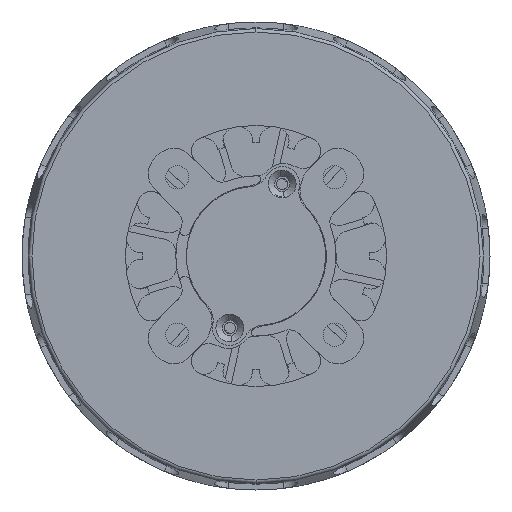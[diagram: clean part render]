
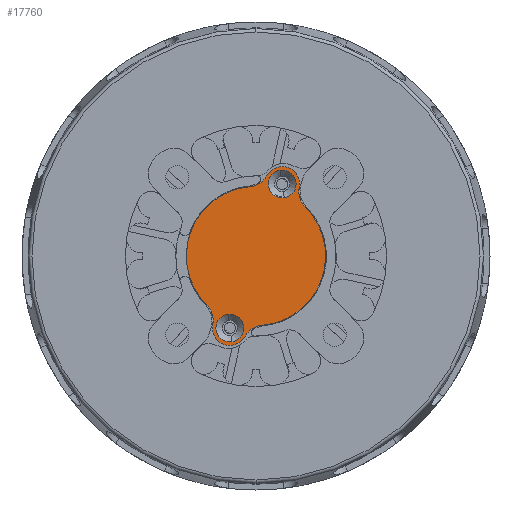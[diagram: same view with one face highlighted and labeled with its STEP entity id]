
A CAD part, left-side view. The second image highlights one B-rep face of the part: STEP entity #17760.
In plain terms, the highlighted planar face has unit normal (-1, 0, 0).
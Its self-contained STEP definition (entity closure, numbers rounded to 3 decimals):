
#179 = CARTESIAN_POINT ( 'NONE',  ( 0., 0., 0. ) ) ;
#262 = DIRECTION ( 'NONE',  ( 1., 0., 0. ) ) ;
#730 = AXIS2_PLACEMENT_3D ( 'NONE', #38484, #35053, #16709 ) ;
#759 = CARTESIAN_POINT ( 'NONE',  ( 0., -1.564, 11.527 ) ) ;
#1628 = ORIENTED_EDGE ( 'NONE', *, *, #35247, .F. ) ;
#1676 = CARTESIAN_POINT ( 'NONE',  ( 0., -3.762, 10.337 ) ) ;
#1888 = CIRCLE ( 'NONE', #15101, 3. ) ;
#2288 = EDGE_CURVE ( 'NONE', #23543, #23073, #1888, .T. ) ;
#2576 = EDGE_LOOP ( 'NONE', ( #1628, #32707 ) ) ;
#2927 = FACE_OUTER_BOUND ( 'NONE', #23339, .T. ) ;
#3023 = CARTESIAN_POINT ( 'NONE',  ( 0., 1.074, 12.956 ) ) ;
#3256 = DIRECTION ( 'NONE',  ( 0., -0.906, 0.423 ) ) ;
#3461 = CIRCLE ( 'NONE', #42716, 2.5 ) ;
#3865 = CARTESIAN_POINT ( 'NONE',  ( 0., 0., 0. ) ) ;
#4319 = DIRECTION ( 'NONE',  ( 0., -0.906, 0.423 ) ) ;
#5112 = ORIENTED_EDGE ( 'NONE', *, *, #28214, .F. ) ;
#5248 = ORIENTED_EDGE ( 'NONE', *, *, #25207, .F. ) ;
#6271 = EDGE_CURVE ( 'NONE', #12224, #23543, #3461, .T. ) ;
#6377 = CIRCLE ( 'NONE', #45202, 2. ) ;
#6434 = DIRECTION ( 'NONE',  ( 0., -0.906, 0.423 ) ) ;
#6467 = DIRECTION ( 'NONE',  ( 1., 0., 0. ) ) ;
#6785 = AXIS2_PLACEMENT_3D ( 'NONE', #23031, #36996, #37218 ) ;
#6836 = ORIENTED_EDGE ( 'NONE', *, *, #6271, .F. ) ;
#6894 = DIRECTION ( 'NONE',  ( -1., 0., 0. ) ) ;
#7172 = DIRECTION ( 'NONE',  ( -1., 0., 0. ) ) ;
#7369 = DIRECTION ( 'NONE',  ( 1., 0., 0. ) ) ;
#7411 = CARTESIAN_POINT ( 'NONE',  ( 0., -3.461, 12.314 ) ) ;
#9514 = AXIS2_PLACEMENT_3D ( 'NONE', #3865, #35961, #4319 ) ;
#10036 = DIRECTION ( 'NONE',  ( -1., 0., 0. ) ) ;
#10541 = CARTESIAN_POINT ( 'NONE',  ( 0., 3.762, -10.337 ) ) ;
#10823 = CARTESIAN_POINT ( 'NONE',  ( 0., -0.826, -9.966 ) ) ;
#11594 = AXIS2_PLACEMENT_3D ( 'NONE', #10541, #6894, #6434 ) ;
#11764 = AXIS2_PLACEMENT_3D ( 'NONE', #179, #24029, #31572 ) ;
#11882 = VERTEX_POINT ( 'NONE', #7411 ) ;
#12224 = VERTEX_POINT ( 'NONE', #25703 ) ;
#12910 = ORIENTED_EDGE ( 'NONE', *, *, #22326, .F. ) ;
#13163 = CIRCLE ( 'NONE', #37343, 2.5 ) ;
#13907 = CIRCLE ( 'NONE', #730, 2. ) ;
#13944 = CARTESIAN_POINT ( 'NONE',  ( 0., -3.762, 10.337 ) ) ;
#14329 = CARTESIAN_POINT ( 'NONE',  ( 0., 6.211, -9.835 ) ) ;
#15101 = AXIS2_PLACEMENT_3D ( 'NONE', #28269, #7172, #32163 ) ;
#15508 = ORIENTED_EDGE ( 'NONE', *, *, #17486, .F. ) ;
#16170 = VERTEX_POINT ( 'NONE', #23786 ) ;
#16288 = ORIENTED_EDGE ( 'NONE', *, *, #2288, .F. ) ;
#16684 = VERTEX_POINT ( 'NONE', #30433 ) ;
#16709 = DIRECTION ( 'NONE',  ( 0., -0.906, 0.423 ) ) ;
#17002 = DIRECTION ( 'NONE',  ( 0., -0.906, 0.423 ) ) ;
#17486 = EDGE_CURVE ( 'NONE', #23073, #39131, #38132, .T. ) ;
#17588 = FACE_BOUND ( 'NONE', #2576, .T. ) ;
#17696 = CARTESIAN_POINT ( 'NONE',  ( 0., 3.762, -10.337 ) ) ;
#17760 = ADVANCED_FACE ( 'NONE', ( #2927, #27464, #17588 ), #31799, .F. ) ;
#19489 = EDGE_CURVE ( 'NONE', #27405, #33375, #44504, .T. ) ;
#20239 = DIRECTION ( 'NONE',  ( -1., 0., 0. ) ) ;
#20316 = CIRCLE ( 'NONE', #26156, 3. ) ;
#21777 = CIRCLE ( 'NONE', #37134, 2. ) ;
#22078 = CIRCLE ( 'NONE', #6785, 3. ) ;
#22326 = EDGE_CURVE ( 'NONE', #11882, #16170, #6377, .T. ) ;
#22382 = EDGE_CURVE ( 'NONE', #39131, #34945, #20316, .T. ) ;
#23031 = CARTESIAN_POINT ( 'NONE',  ( 0., -1.074, -12.956 ) ) ;
#23073 = VERTEX_POINT ( 'NONE', #36853 ) ;
#23339 = EDGE_LOOP ( 'NONE', ( #16288, #6836, #41531, #26699, #36067, #5248, #27185, #15508 ) ) ;
#23543 = VERTEX_POINT ( 'NONE', #14329 ) ;
#23786 = CARTESIAN_POINT ( 'NONE',  ( 0., -4.063, 8.359 ) ) ;
#23898 = DIRECTION ( 'NONE',  ( -1., 0., 0. ) ) ;
#24029 = DIRECTION ( 'NONE',  ( 1., 0., 0. ) ) ;
#24764 = AXIS2_PLACEMENT_3D ( 'NONE', #38572, #20239, #31018 ) ;
#25207 = EDGE_CURVE ( 'NONE', #34945, #27405, #13163, .T. ) ;
#25703 = CARTESIAN_POINT ( 'NONE',  ( 0., 1.564, -11.527 ) ) ;
#25904 = CARTESIAN_POINT ( 'NONE',  ( 0., 4.063, -8.359 ) ) ;
#26156 = AXIS2_PLACEMENT_3D ( 'NONE', #3023, #23898, #17002 ) ;
#26699 = ORIENTED_EDGE ( 'NONE', *, *, #36816, .F. ) ;
#27185 = ORIENTED_EDGE ( 'NONE', *, *, #22382, .F. ) ;
#27323 = DIRECTION ( 'NONE',  ( 0., -0.906, 0.423 ) ) ;
#27405 = VERTEX_POINT ( 'NONE', #30180 ) ;
#27464 = FACE_BOUND ( 'NONE', #36261, .T. ) ;
#27852 = CIRCLE ( 'NONE', #9514, 10. ) ;
#27856 = EDGE_CURVE ( 'NONE', #33339, #12224, #22078, .T. ) ;
#28214 = EDGE_CURVE ( 'NONE', #16170, #11882, #21777, .T. ) ;
#28269 = CARTESIAN_POINT ( 'NONE',  ( 0., 9.151, -9.234 ) ) ;
#30180 = CARTESIAN_POINT ( 'NONE',  ( 0., -6.211, 9.835 ) ) ;
#30433 = CARTESIAN_POINT ( 'NONE',  ( 0., 3.461, -12.314 ) ) ;
#31018 = DIRECTION ( 'NONE',  ( 0., -0.906, 0.423 ) ) ;
#31167 = CARTESIAN_POINT ( 'NONE',  ( 0., -7.039, 7.103 ) ) ;
#31353 = CIRCLE ( 'NONE', #11594, 2. ) ;
#31572 = DIRECTION ( 'NONE',  ( 0., -0.906, 0.423 ) ) ;
#31799 = PLANE ( 'NONE',  #11764 ) ;
#32163 = DIRECTION ( 'NONE',  ( 0., -0.906, 0.423 ) ) ;
#32707 = ORIENTED_EDGE ( 'NONE', *, *, #36636, .F. ) ;
#33339 = VERTEX_POINT ( 'NONE', #10823 ) ;
#33375 = VERTEX_POINT ( 'NONE', #31167 ) ;
#34945 = VERTEX_POINT ( 'NONE', #759 ) ;
#35053 = DIRECTION ( 'NONE',  ( -1., 0., 0. ) ) ;
#35184 = AXIS2_PLACEMENT_3D ( 'NONE', #40855, #6467, #3256 ) ;
#35247 = EDGE_CURVE ( 'NONE', #16684, #37266, #31353, .T. ) ;
#35961 = DIRECTION ( 'NONE',  ( 1., 0., 0. ) ) ;
#36067 = ORIENTED_EDGE ( 'NONE', *, *, #19489, .F. ) ;
#36261 = EDGE_LOOP ( 'NONE', ( #5112, #12910 ) ) ;
#36636 = EDGE_CURVE ( 'NONE', #37266, #16684, #13907, .T. ) ;
#36816 = EDGE_CURVE ( 'NONE', #33375, #33339, #27852, .T. ) ;
#36853 = CARTESIAN_POINT ( 'NONE',  ( 0., 7.039, -7.103 ) ) ;
#36996 = DIRECTION ( 'NONE',  ( -1., 0., 0. ) ) ;
#37134 = AXIS2_PLACEMENT_3D ( 'NONE', #13944, #10036, #44680 ) ;
#37218 = DIRECTION ( 'NONE',  ( 0., -0.906, 0.423 ) ) ;
#37266 = VERTEX_POINT ( 'NONE', #25904 ) ;
#37343 = AXIS2_PLACEMENT_3D ( 'NONE', #38760, #262, #27323 ) ;
#38132 = CIRCLE ( 'NONE', #35184, 10. ) ;
#38420 = CARTESIAN_POINT ( 'NONE',  ( 0., 0.826, 9.966 ) ) ;
#38484 = CARTESIAN_POINT ( 'NONE',  ( 0., 3.762, -10.337 ) ) ;
#38572 = CARTESIAN_POINT ( 'NONE',  ( 0., -9.151, 9.234 ) ) ;
#38760 = CARTESIAN_POINT ( 'NONE',  ( 0., -3.762, 10.337 ) ) ;
#39131 = VERTEX_POINT ( 'NONE', #38420 ) ;
#40855 = CARTESIAN_POINT ( 'NONE',  ( 0., 0., 0. ) ) ;
#41073 = DIRECTION ( 'NONE',  ( 0., -0.906, 0.423 ) ) ;
#41531 = ORIENTED_EDGE ( 'NONE', *, *, #27856, .F. ) ;
#41994 = DIRECTION ( 'NONE',  ( 0., -0.906, 0.423 ) ) ;
#42716 = AXIS2_PLACEMENT_3D ( 'NONE', #17696, #7369, #41994 ) ;
#44504 = CIRCLE ( 'NONE', #24764, 3. ) ;
#44526 = DIRECTION ( 'NONE',  ( -1., 0., 0. ) ) ;
#44680 = DIRECTION ( 'NONE',  ( 0., -0.906, 0.423 ) ) ;
#45202 = AXIS2_PLACEMENT_3D ( 'NONE', #1676, #44526, #41073 ) ;
